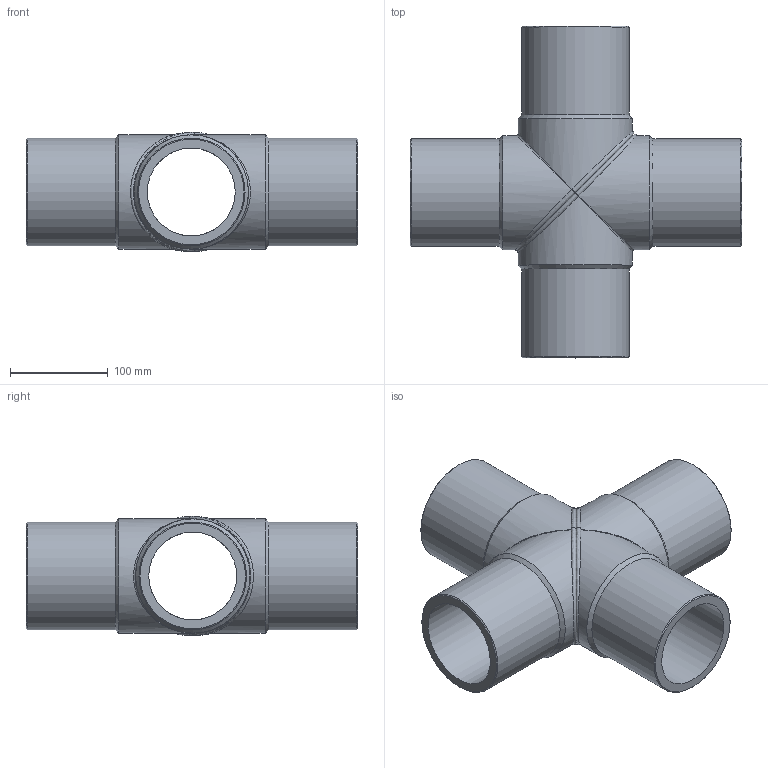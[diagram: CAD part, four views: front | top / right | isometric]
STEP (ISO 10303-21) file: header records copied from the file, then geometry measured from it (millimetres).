
FILE_DESCRIPTION(/* description */ ('Unknown'),/* implementation_level */ '2;1');
FILE_NAME(/* name */ 'CRP110C',/* time_stamp */ '2022-07-07T17:02:34+02:00',/* author */ ('Unknown'),/* organization */ ('Unknown'),/* preprocessor_version */ 'ST-DEVELOPER v18.102',/* originating_system */ 'Solid Edge',/* authorisation */ 'Unknown');
FILE_SCHEMA (('AUTOMOTIVE_DESIGN {1 0 10303 214 3 1 1}'));
Length unit declared in the file: millimetre
Products named in the file (3): CRP110C; CRP110C_mir
Assembly tree (2 placements, depth 2):
  CRP110C
    CRP110C
    CRP110C_mir
Bounding box: 339.5 x 339.5 x 121.99 mm (x, y, z)
Volume: 1938628.4 mm3; surface area: 373461.8 mm2
Topology: 2 solids, 2 shells, 32 faces, 90 edges, 60 vertices
Faces by surface type: cylinder 12, cone 8, plane 6, bspline 6
Full cylindrical faces by diameter (mm): 90 x4, 110 x4, 117 x4
Entity records: 3005 total; most frequent: CARTESIAN_POINT 2277, DIRECTION 126, ORIENTED_EDGE 120, AXIS2_PLACEMENT_3D 63, EDGE_CURVE 60, EDGE_LOOP 58, FACE_BOUND 58, VERTEX_POINT 50
